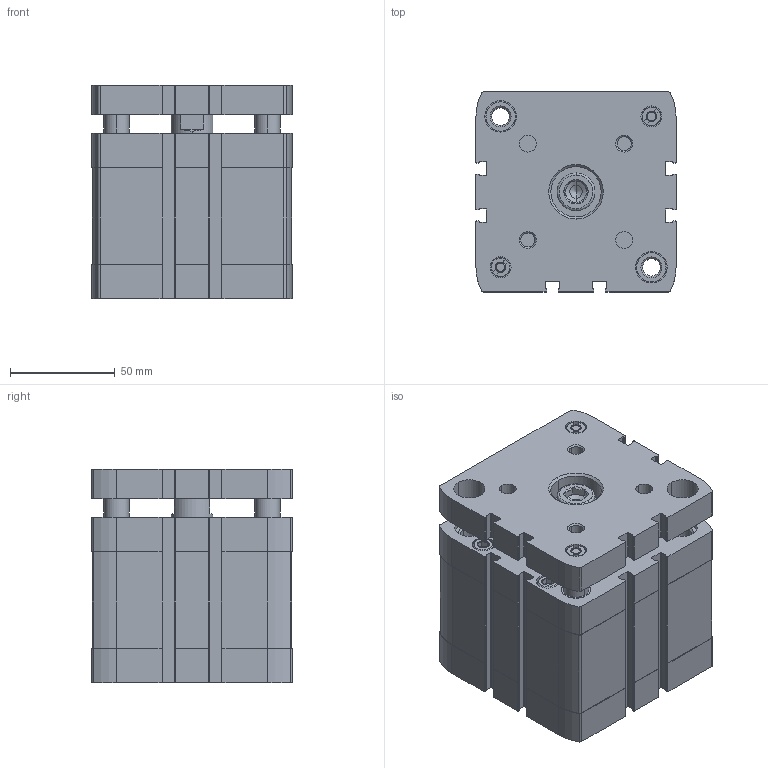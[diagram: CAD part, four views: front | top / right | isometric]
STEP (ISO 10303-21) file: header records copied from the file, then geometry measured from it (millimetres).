
FILE_DESCRIPTION (( 'STEP AP203' ), '1' );
FILE_NAME ('CCNG80-25.STEP', '2017-04-20T16:49:15', ( '' ), ( '' ), 'SwSTEP 2.0', 'SolidWorks 2016', '' );
FILE_SCHEMA (( 'CONFIG_CONTROL_DESIGN' ));
Length unit declared in the file: millimetre
Products named in the file (3): CCNG-80-25---(Z); CCNG-80-25----(KS); CCNG80-25
Assembly tree (2 placements, depth 2):
  CCNG80-25
    CCNG-80-25---(Z)
    CCNG-80-25----(KS)
Bounding box: 95.5 x 95.5 x 101.9 mm (x, y, z)
Volume: 669906.7 mm3; surface area: 141229.4 mm2
Topology: 2 solids, 4 shells, 749 faces, 1956 edges, 1253 vertices
Faces by surface type: plane 319, cylinder 280, cone 144, bspline 6
Entity records: 23885 total; most frequent: CARTESIAN_POINT 4729, DIRECTION 4114, ORIENTED_EDGE 3876, EDGE_CURVE 1938, AXIS2_PLACEMENT_3D 1522, VERTEX_POINT 1253, VECTOR 1070, LINE 1070
